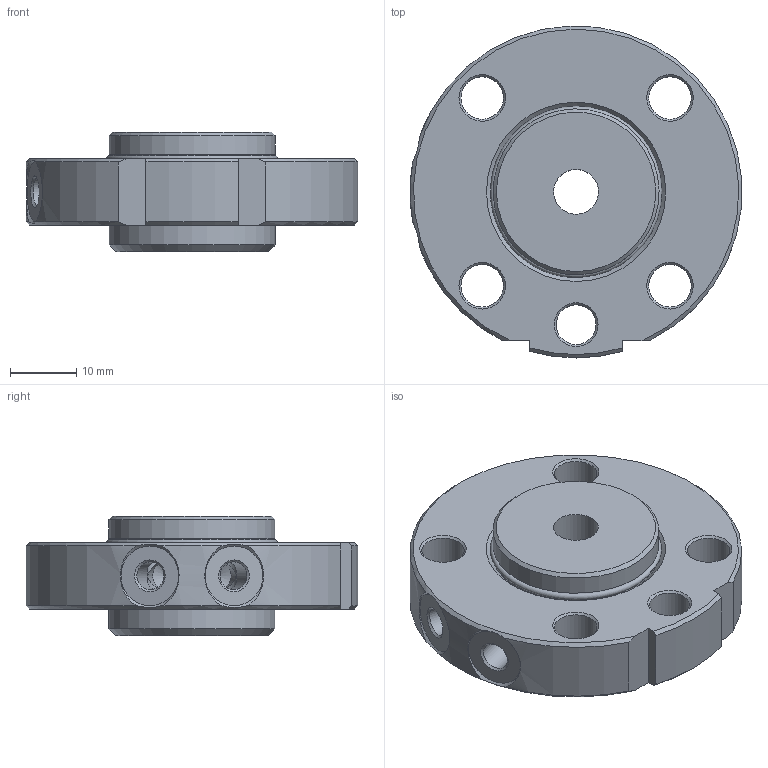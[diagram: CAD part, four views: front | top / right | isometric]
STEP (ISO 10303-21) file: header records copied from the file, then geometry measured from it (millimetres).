
FILE_DESCRIPTION(/* description */ (''),/* implementation_level */ '2;1');
FILE_NAME(/* name */ 'G-ZS050-S2P_Rev.1.01.stp',/* time_stamp */ '2024-08-29T15:21:09+02:00',/* author */ ('ysplieth'),/* organization */ (''),/* preprocessor_version */ 'ST-DEVELOPER v20',/* originating_system */ 'Autodesk Inventor 2024',/* authorisation */ '');
FILE_SCHEMA (('AUTOMOTIVE_DESIGN { 1 0 10303 214 3 1 1 }'));
Length unit declared in the file: millimetre
Products named in the file (1): Bauteil3
Bounding box: 49.87 x 49.98 x 17.95 mm (x, y, z)
Volume: 19187.7 mm3; surface area: 8596.6 mm2
Topology: 2 solids, 2 shells, 74 faces, 188 edges, 119 vertices
Faces by surface type: cone 30, cylinder 27, plane 15, torus 2
Full cylindrical faces by diameter (mm): 4.2 x6, 6 x1, 6.4 x4, 6.75 x1, 15 x1, 23.8 x2, 25 x4
Entity records: 2489 total; most frequent: CARTESIAN_POINT 512, DIRECTION 411, ORIENTED_EDGE 368, EDGE_CURVE 184, AXIS2_PLACEMENT_3D 176, VERTEX_POINT 119, EDGE_LOOP 97, CIRCLE 87
